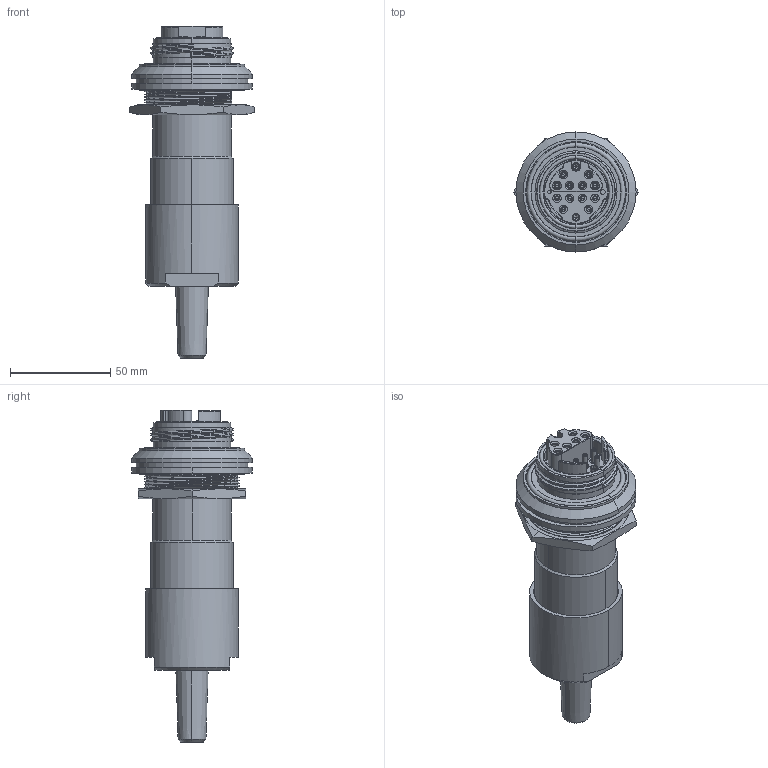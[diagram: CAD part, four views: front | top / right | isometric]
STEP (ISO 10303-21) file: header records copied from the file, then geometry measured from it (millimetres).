
FILE_DESCRIPTION (( 'STEP AP214' ), '1' );
FILE_NAME ('QFOCA-RLXX-12CH-X-SXXX.STEP', '2025-06-09T20:32:27', ( '' ), ( '' ), 'SwSTEP 2.0', 'SolidWorks 2024', '' );
FILE_SCHEMA (( 'AUTOMOTIVE_DESIGN' ));
Length unit declared in the file: inch
Products named in the file (1): QFOCA-RLXX-12CH-X-SXXX
Bounding box: 62.33 x 60.07 x 165.99 mm (x, y, z)
Volume: 198148.5 mm3; surface area: 44866.4 mm2
Topology: 10 solids, 18 shells, 658 faces, 1524 edges, 934 vertices
Faces by surface type: cylinder 222, plane 150, cone 136, torus 110, bspline 40
Entity records: 29626 total; most frequent: CARTESIAN_POINT 14735, DIRECTION 3199, ORIENTED_EDGE 3040, EDGE_CURVE 1520, AXIS2_PLACEMENT_3D 1329, VERTEX_POINT 934, EDGE_LOOP 724, CIRCLE 710
